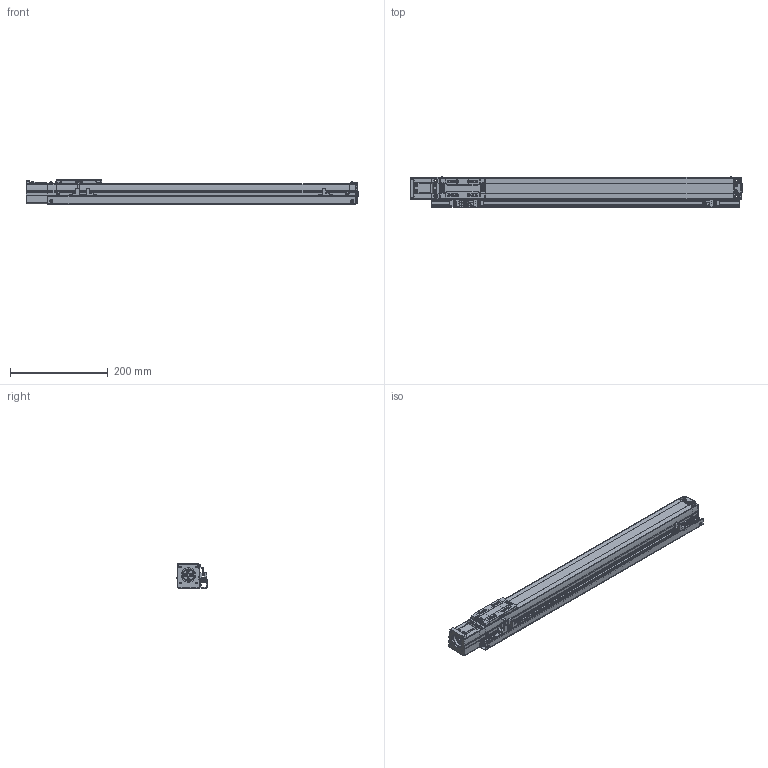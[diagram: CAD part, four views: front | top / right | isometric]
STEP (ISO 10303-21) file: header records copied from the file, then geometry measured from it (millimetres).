
FILE_DESCRIPTION(('STEP AP214'),'1');
FILE_NAME('Z:/Web/3D/SAN45/STP/SAN45ㅁㅁ-500S+3SR.stp','2012-06-15T07:32:22',(' '),(' '),'Spatial InterOp 3D',' ',' ');
FILE_SCHEMA(('automotive_design'));
Length unit declared in the file: metre
Products named in the file (86): SAN45__-500; BODY-SAN45; REAR-SAN45; RRCV-SAN45; BHCS M3 x 6L; BHCS M3 X 6L; FRONT-SAN45; SHAFT; RN8 x 0.75; SSFX-SAN45; SLIDE-SAN45; SLCV-IM45; FHCS M3 x 6L; ____93; S; MTHZ-SAN45; SDWB 22C-6-8; SDWB22C(2); SDWB22C(2)_1; SDWB22C(3); SDWB22C(3)_1; SDWB22C(3)_2; SDWB22C(3)_3; SDWB22C(3)_4; SDWB22C(3)_5; SDWB22C(3)_6; SDWB22C(3)_7; SDWB22C(3)_8; SDWB22C(3)_9; SDWB22C(3)_10; SDWB22C(3)_11; SDWB22C(3)_12; SDWB22C(3)_13; SDWB22C(3)_14; SDWB22C(3)_15; SDWB22C(4); SDWB22C(5); SDWB22C(5)_1; SDWB22C(5)_2; SDWB22C(5)_3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
Assembly tree (85 placements, depth 4):
  ____93
    SAN45__-500
      BODY-SAN45
      REAR-SAN45
        REAR-SAN45
        RRCV-SAN45
        BHCS M3 x 6L
        BHCS M3 X 6L
        BHCS M3 x 6L
        BHCS M3 x 6L
        BHCS M3 x 6L
        BHCS M3 x 6L
      FRONT-SAN45
        FRONT-SAN45
        SHAFT
        RN8 x 0.75
        SSFX-SAN45
        BHCS M3 x 6L
        BHCS M3 x 6L
        BHCS M3 x 6L
        BHCS M3 x 6L
      SLIDE-SAN45
        SLIDE-SAN45
        SLCV-IM45
        FHCS M3 x 6L
        FHCS M3 x 6L
        FHCS M3 x 6L
        FHCS M3 x 6L
    S
      MTHZ-SAN45
      SDWB 22C-6-8
        SDWB22C(2)
        SDWB22C(2)_1
        SDWB22C(3)
        SDWB22C(3)_1
        SDWB22C(3)_2
        SDWB22C(3)_3
        SDWB22C(3)_4
        SDWB22C(3)_5
        SDWB22C(3)_6
        SDWB22C(3)_7
        SDWB22C(3)_8
        SDWB22C(3)_9
        SDWB22C(3)_10
        SDWB22C(3)_11
        SDWB22C(3)_12
        SDWB22C(3)_13
        SDWB22C(3)_14
        SDWB22C(3)_15
        SDWB22C(4)
        SDWB22C(5)
        SDWB22C(5)_1
        SDWB22C(5)_2
        SDWB22C(5)_3
        SDWB22C(5)_4
        SDWB22C(5)_5
        SDWB22C(5)_6
        SDWB22C(5)_7
        SDWA22C(1)
        SDWA22C(1)
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Bounding box: 680.15 x 62.06 x 50 mm (x, y, z)
Volume: 1302341.8 mm3; surface area: 271614.2 mm2
Topology: 74 solids, 74 shells, 2390 faces, 6083 edges, 3923 vertices
Faces by surface type: plane 1432, cylinder 665, cone 163, sphere 54, bspline 46, torus 27, extrusion 3
Full cylindrical faces by diameter (mm): 0.376 x2, 0.47 x1, 1.137 x2, 1.421 x1, 1.665 x4, 2.081 x2, 2.2 x4, 2.5 x45, 2.6 x14, 2.7 x2, 3 x10, 3.193 x4, 3.3 x8, 3.4 x4, 3.5 x16, 3.991 x2, 4.2 x14, 4.5 x28, 4.9 x2, 5 x13, 6 x9, 6.5 x2, 7 x1, 8 x9, 9 x1, 10.7 x2, 13 x1, 15 x1, 19 x1, 22.2 x3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
Entity records: 94669 total; most frequent: CARTESIAN_POINT 17093, DIRECTION 11980, ORIENTED_EDGE 11068, EDGE_CURVE 5534, AXIS2_PLACEMENT_3D 4182, VERTEX_POINT 3793, VECTOR 3616, LINE 3613
